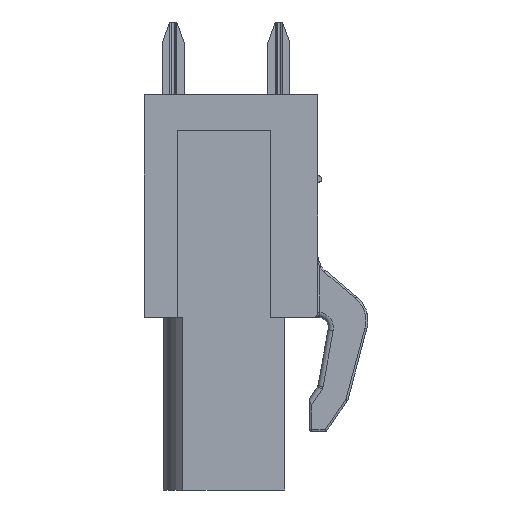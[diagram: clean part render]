
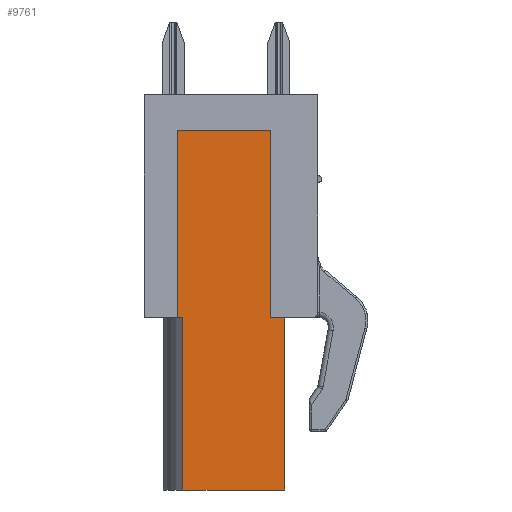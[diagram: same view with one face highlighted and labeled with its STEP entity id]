
A CAD part, left-side view. The second image highlights one B-rep face of the part: STEP entity #9761.
In plain terms, the highlighted planar face has unit normal (-1, 0, 0).
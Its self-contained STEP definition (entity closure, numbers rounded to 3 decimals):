
#1610=DIRECTION('',(0.,-1.,0.));
#1611=VECTOR('',#1610,4.9);
#1612=CARTESIAN_POINT('',(20.,8.9,-22.5));
#1613=LINE('',#1612,#1611);
#1963=DIRECTION('',(0.,0.,-1.));
#1964=VECTOR('',#1963,8.3);
#1965=CARTESIAN_POINT('',(20.,8.9,-14.2));
#1966=LINE('',#1965,#1964);
#1967=DIRECTION('',(0.,1.,0.));
#1968=VECTOR('',#1967,0.555);
#1969=CARTESIAN_POINT('',(20.,8.9,-14.2));
#1970=LINE('',#1969,#1968);
#1971=DIRECTION('',(0.,0.,-1.));
#1972=VECTOR('',#1971,9.);
#1973=CARTESIAN_POINT('',(20.,4.405,-5.2));
#1974=LINE('',#1973,#1972);
#1975=DIRECTION('',(0.,-1.,0.));
#1976=VECTOR('',#1975,0.405);
#1977=CARTESIAN_POINT('',(20.,4.405,-14.2));
#1978=LINE('',#1977,#1976);
#1979=DIRECTION('',(0.,0.,-1.));
#1980=VECTOR('',#1979,9.);
#1981=CARTESIAN_POINT('',(20.,9.455,-5.2));
#1982=LINE('',#1981,#1980);
#2004=DIRECTION('',(0.,1.,0.));
#2005=VECTOR('',#2004,5.05);
#2006=CARTESIAN_POINT('',(20.,4.405,-5.2));
#2007=LINE('',#2006,#2005);
#2317=DIRECTION('',(0.,0.,1.));
#2318=VECTOR('',#2317,8.3);
#2319=CARTESIAN_POINT('',(20.,4.,-22.5));
#2320=LINE('',#2319,#2318);
#5569=CARTESIAN_POINT('',(20.,9.455,-14.2));
#5570=VERTEX_POINT('',#5569);
#5571=CARTESIAN_POINT('',(20.,8.9,-14.2));
#5572=VERTEX_POINT('',#5571);
#5943=CARTESIAN_POINT('',(20.,8.9,-22.5));
#5944=VERTEX_POINT('',#5943);
#5945=CARTESIAN_POINT('',(20.,4.,-22.5));
#5946=VERTEX_POINT('',#5945);
#6095=CARTESIAN_POINT('',(20.,9.455,-5.2));
#6096=VERTEX_POINT('',#6095);
#6097=CARTESIAN_POINT('',(20.,4.405,-5.2));
#6098=VERTEX_POINT('',#6097);
#6099=CARTESIAN_POINT('',(20.,4.405,-14.2));
#6100=VERTEX_POINT('',#6099);
#6101=CARTESIAN_POINT('',(20.,4.,-14.2));
#6102=VERTEX_POINT('',#6101);
#9741=CARTESIAN_POINT('',(20.,6.93,-14.2));
#9742=DIRECTION('',(1.,0.,0.));
#9743=DIRECTION('',(0.,-1.,0.));
#9744=AXIS2_PLACEMENT_3D('',#9741,#9742,#9743);
#9745=PLANE('',#9744);
#9746=ORIENTED_EDGE('',*,*,#9733,.F.);
#9747=ORIENTED_EDGE('',*,*,#7181,.T.);
#9749=ORIENTED_EDGE('',*,*,#9748,.F.);
#9751=ORIENTED_EDGE('',*,*,#9750,.F.);
#9753=ORIENTED_EDGE('',*,*,#9752,.T.);
#9755=ORIENTED_EDGE('',*,*,#9754,.T.);
#9757=ORIENTED_EDGE('',*,*,#9756,.F.);
#9758=ORIENTED_EDGE('',*,*,#9517,.F.);
#9759=EDGE_LOOP('',(#9746,#9747,#9749,#9751,#9753,#9755,#9757,#9758));
#9760=FACE_OUTER_BOUND('',#9759,.F.);
#9761=ADVANCED_FACE('',(#9760),#9745,.F.);
#7181=EDGE_CURVE('',#5572,#5570,#1970,.T.);
#9517=EDGE_CURVE('',#5944,#5946,#1613,.T.);
#9733=EDGE_CURVE('',#5572,#5944,#1966,.T.);
#9748=EDGE_CURVE('',#6096,#5570,#1982,.T.);
#9750=EDGE_CURVE('',#6098,#6096,#2007,.T.);
#9752=EDGE_CURVE('',#6098,#6100,#1974,.T.);
#9754=EDGE_CURVE('',#6100,#6102,#1978,.T.);
#9756=EDGE_CURVE('',#5946,#6102,#2320,.T.);
